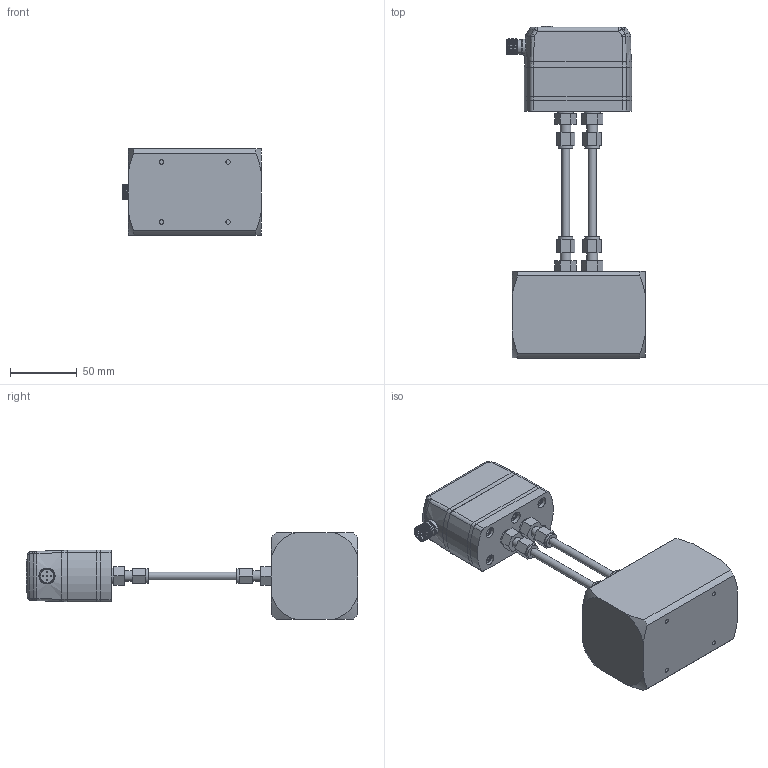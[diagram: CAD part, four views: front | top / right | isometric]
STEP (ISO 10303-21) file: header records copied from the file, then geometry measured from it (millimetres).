
FILE_DESCRIPTION( (''), '2;1');
FILE_NAME( 'QEKH_DN32_female-thread_high-temp.step', '2025-04-28T16:14:02+08:00', (''), (''), '', '', '');
FILE_SCHEMA (('AUTOMOTIVE_DESIGN { 1 0 10303 214 3 1 1 1 }'));
Products named in the file (1): QEKH DN32_female-thread_high-temp
Bounding box: 104.21 x 249.4 x 65 mm (x, y, z)
Volume: 627222.2 mm3; surface area: 118104.1 mm2
Topology: 30 solids, 33 shells, 1606 faces, 3948 edges, 2528 vertices
Faces by surface type: plane 805, cylinder 301, extrusion 239, cone 152, torus 52, bspline 48, sphere 9
Full cylindrical faces by diameter (mm): 1 x10, 2.05 x4, 2.6 x4, 2.7 x5, 2.874 x4, 3 x6, 3.1 x1, 3.3 x10, 3.5 x7, 3.838 x6, 4.5 x12, 5 x2, 5.5 x10, 6 x6, 7 x6, 8 x8, 9 x2, 9.8 x2, 10.8 x1, 11 x4, 11.992 x2, 12 x14, 14 x2, 14.5 x2, 17 x2, 19.1 x6
Entity records: 52889 total; most frequent: CARTESIAN_POINT 16739, ORIENTED_EDGE 7268, DIRECTION 6637, EDGE_CURVE 3634, VERTEX_POINT 2456, VECTOR 2239, AXIS2_PLACEMENT_3D 2199, EDGE_LOOP 2018
